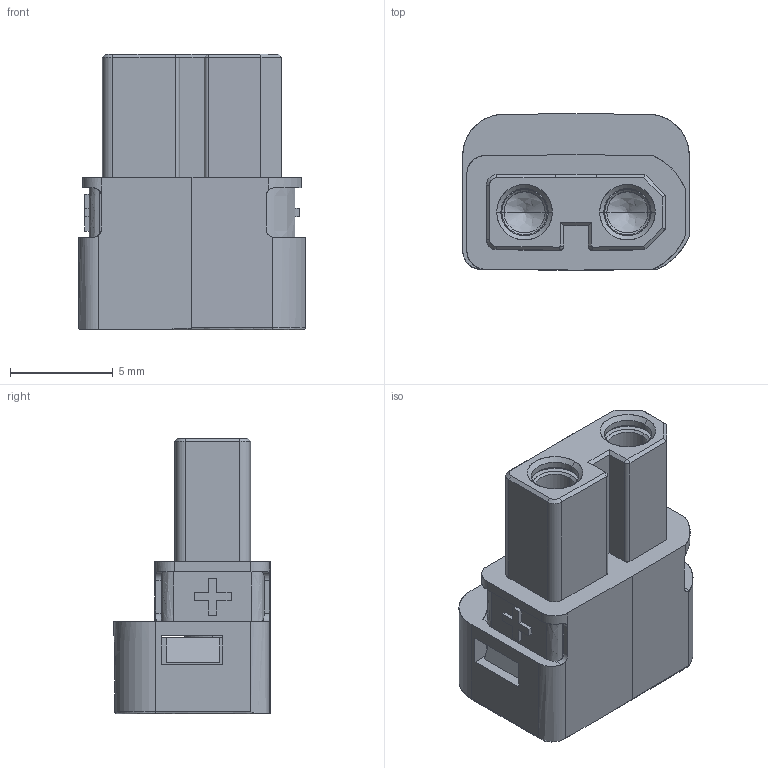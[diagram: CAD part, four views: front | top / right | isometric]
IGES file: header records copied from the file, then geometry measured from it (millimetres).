
Start section: SolidWorks IGES file using analytic representation for surfaces
Global section: file name: C:\Users\HIAPAD\Desktop\賤躇恅璃\XT30ULW-F(DC48V)A遴.IGS; native system: SolidWorks 2021; preprocessor: SolidWorks 2021; author: HIAPAD; date: 231009.155520; units: millimetre
Bounding box: 11 x 7.6 x 13.4 mm (x, y, z)
Surface area: 1003.6 mm2 (no closed solid volume)
Topology: 0 solids, 0 shells, 435 faces, 3105 edges, 3092 vertices
Faces by surface type: bspline 342, revolution 93
